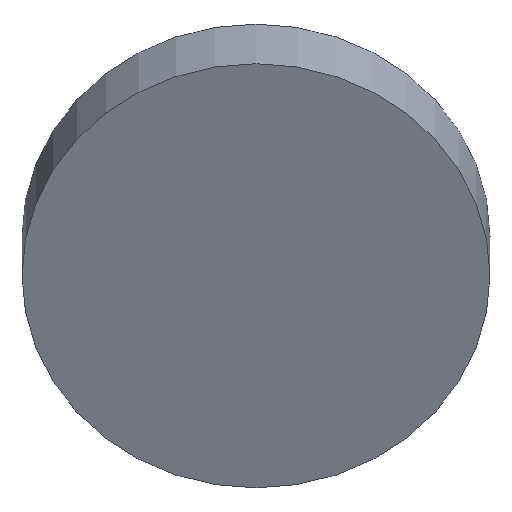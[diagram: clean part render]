
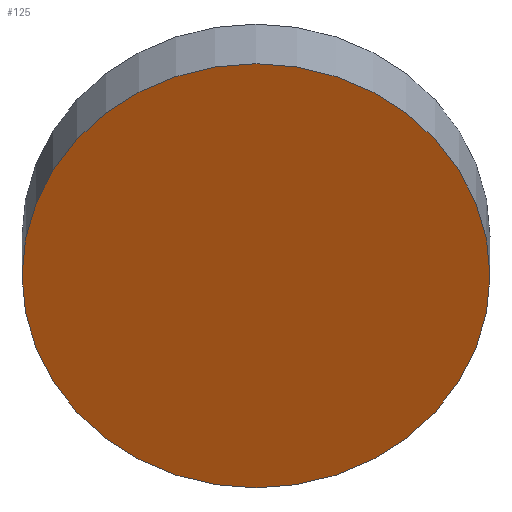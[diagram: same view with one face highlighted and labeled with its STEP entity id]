
A CAD part, front view. The second image highlights one B-rep face of the part: STEP entity #125.
In plain terms, the highlighted planar face has unit normal (0, -0.906, -0.423).
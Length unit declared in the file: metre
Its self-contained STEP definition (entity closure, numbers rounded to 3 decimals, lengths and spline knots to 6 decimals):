
#13=CIRCLE('',#145,0.0275);
#42=ORIENTED_EDGE('',*,*,#56,.T.);
#56=EDGE_CURVE('',#66,#66,#13,.T.);
#66=VERTEX_POINT('',#212);
#100=EDGE_LOOP('',(#42));
#110=FACE_BOUND('',#100,.T.);
#117=PLANE('',#148);
#125=ADVANCED_FACE('',(#110),#117,.T.);
#145=AXIS2_PLACEMENT_3D('',#211,#175,#176);
#148=AXIS2_PLACEMENT_3D('',#215,#181,#182);
#175=DIRECTION('',(0.,-0.906,-0.423));
#176=DIRECTION('',(1.,0.,0.));
#181=DIRECTION('',(0.,-0.906,-0.423));
#182=DIRECTION('',(1.,0.,0.));
#211=CARTESIAN_POINT('',(0.,-0.240204,-0.014427));
#212=CARTESIAN_POINT('',(0.0275,-0.240204,-0.014427));
#215=CARTESIAN_POINT('',(0.,-0.240204,-0.014427));
